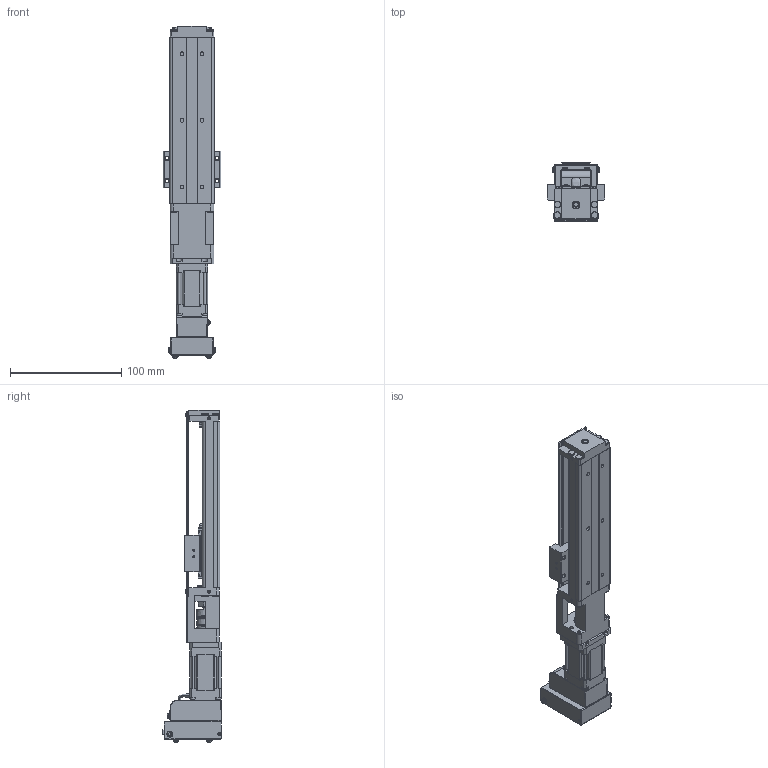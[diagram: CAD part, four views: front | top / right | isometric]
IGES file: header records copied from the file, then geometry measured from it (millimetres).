
Start section: SolidWorks IGES file using analytic representation for surfaces
Global section: file name: \\MYODRIVE\Public\CAD Files\Integrated-Actuators\SPA-Series\SPA-20\SPA20-A-01-080-S-10A0-11L30.IGS; native system: SolidWorks 2015; preprocessor: SolidWorks 2015; author: RENDER; date: 150106.125051; units: millimetre
Bounding box: 52 x 52.3 x 298.9 mm (x, y, z)
Surface area: 105500.7 mm2 (no closed solid volume)
Topology: 0 solids, 0 shells, 2033 faces, 22536 edges, 22495 vertices
Faces by surface type: bspline 1296, revolution 737
